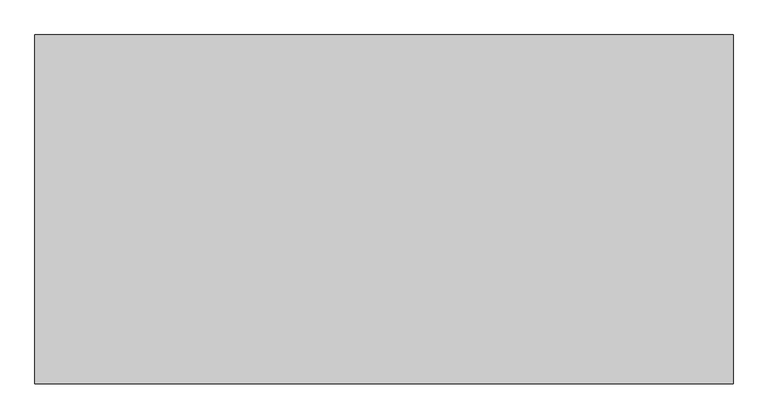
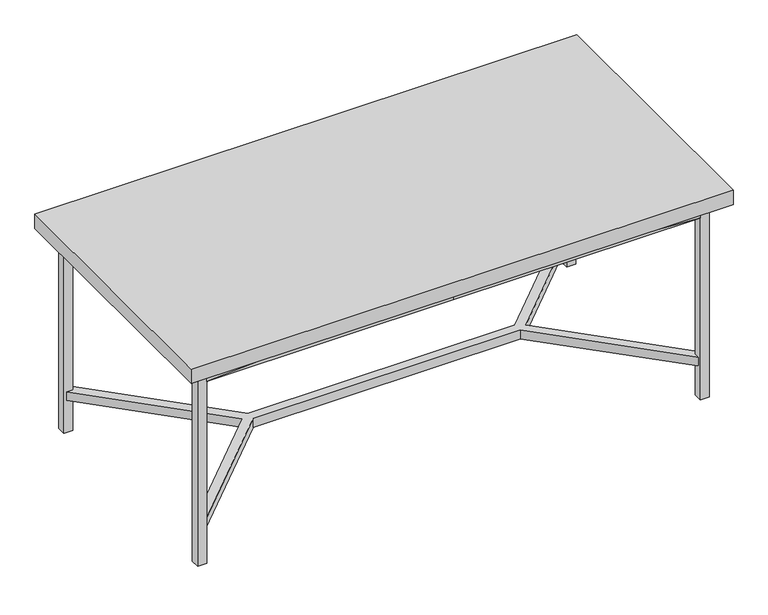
"""IFC4 building model written with IfcOpenShell, lengths in millimetres: furniture geometry, 2.8 Mesa sala docente : 2.8 Mesa sala docente."""

from ifc_helpers import new_model, si_unit, origin, place, context, project, spatial, faceted_brep, source, transform, mapped, element, save


def furniture_19ca3369(model_context):
    return source(origin(), model_context, "Body", "Brep", [
        faceted_brep([(819.9707866, -369.9327707, 639.9966478), (0.0001192, -369.9326515, 639.996767), (0.0001192, -369.9326515, 689.999938), (819.9707866, -369.9327707, 689.9997592), (819.9707866, -399.9620676, 639.9966478), (0.0001192, -399.9619186, 639.996767), (0.0001192, -399.9619484, 689.999938), (819.9707866, -399.9620676, 689.9997592), (-819.9706078, -369.9325621, 639.9969459), (-819.9705482, -369.9325621, 690.0000572), (-819.9706078, -399.961859, 639.9969459), (-819.9705482, -399.961859, 690.0000572)], [[[0, 1, 2, 3]], [[4, 5, 1, 0]], [[6, 5, 4]], [[7, 6, 4]], [[3, 2, 6, 7]], [[3, 7, 4, 0]], [[8, 9, 2, 1]], [[10, 8, 1, 5]], [[10, 5, 6]], [[11, 10, 6]], [[9, 11, 6, 2]], [[9, 8, 10, 11]]]),
        faceted_brep([(849.9847651, -369.9706793, 2.98e-05), (849.9847651, -369.9706793, 690.0000572), (849.9847651, -399.9999762, 690.0000572), (849.9847651, -399.9999762, 2.98e-05), (819.9554682, -369.9706793, 2.98e-05), (819.9554682, -369.9706793, 690.0000572), (819.9554682, -399.9999762, 690.0000572), (819.9554682, -399.9999762, 2.98e-05)], [[[0, 1, 2, 3]], [[4, 5, 1, 0]], [[2, 1, 5, 6]], [[3, 2, 6, 7]], [[3, 7, 4, 0]], [[7, 6, 5, 4]]]),
        faceted_brep([(-849.9847651, -369.9706793, 0.0), (-849.9847651, -399.9999762, 0.0), (-849.9847651, -399.9999762, 690.0000572), (-849.9847651, -369.9706793, 690.0000572), (-819.9554682, -369.9706793, 0.0), (-819.9554682, -399.9999762, 0.0), (-819.9554682, -399.9999762, 690.0000572), (-819.9554682, -369.9706793, 690.0000572)], [[[0, 1, 2, 3]], [[1, 0, 4, 5]], [[1, 5, 6, 2]], [[2, 6, 7, 3]], [[4, 0, 3, 7]], [[5, 4, 7, 6]]]),
        faceted_brep([(819.9555874, 399.9999762, 639.9966478), (-0.0151396, 400.0001252, 639.996767), (-0.0151396, 400.0001252, 689.999938), (819.9555874, 399.9999762, 689.9997592), (-0.0151396, 369.9707985, 689.999938), (-0.0151396, 369.9708283, 639.996767), (819.9555874, 369.9706793, 639.9966478), (819.9555874, 369.9706793, 689.9997592), (-819.9858665, 400.0002146, 639.9968863), (-819.9858069, 400.0002146, 689.9999976), (-819.9859262, 369.9709177, 639.9968863), (-819.9858665, 369.9708879, 689.9999976)], [[[0, 1, 2, 3]], [[4, 5, 6]], [[7, 4, 6]], [[3, 2, 4, 7]], [[3, 7, 6, 0]], [[8, 9, 2, 1]], [[10, 8, 1, 0, 6, 5]], [[11, 10, 5, 4]], [[9, 11, 4, 2]], [[9, 8, 10, 11]]]),
        faceted_brep([(849.9695659, -369.9325323, 639.9968863), (849.9695659, 369.9174523, 639.9968266), (849.9695659, 369.9175119, 689.999938), (849.9695659, -369.9325323, 689.9999976), (819.940269, -369.9325323, 639.9968863), (819.940269, 369.9174523, 639.9968266), (819.940269, 369.9175119, 689.999938), (819.940269, -369.9325323, 689.9999976)], [[[0, 1, 2, 3]], [[4, 5, 1, 0]], [[2, 1, 5, 6]], [[3, 2, 6, 7]], [[3, 7, 4, 0]], [[7, 6, 5, 4]]]),
        faceted_brep([(-849.9999642, -369.9325323, 639.9968863), (-849.9999642, -369.9325323, 689.9999976), (-849.9999642, 369.9175119, 689.999938), (-849.9999642, 369.9174523, 639.9968266), (-819.9706674, -369.9325323, 639.9968863), (-819.9706674, -369.9325323, 689.9999976), (-819.9706674, 369.9175119, 689.999938), (-819.9706674, 369.9174523, 639.9968266)], [[[0, 1, 2, 3]], [[1, 0, 4, 5]], [[1, 5, 6, 2]], [[2, 6, 7, 3]], [[4, 0, 3, 7]], [[5, 4, 7, 6]]]),
        faceted_brep([(-899.9999762, 449.9999881, 689.9999976), (-899.9999762, -449.9999881, 689.9999976), (-899.9999762, -449.9999881, 740.0000095), (-899.9999762, 449.9999881, 740.0000095), (899.9999762, 449.9999881, 689.9999976), (899.9999762, 449.9999881, 740.0000095), (899.9999762, -449.9999881, 689.9999976), (899.9999762, -449.9999881, 740.0000095)], [[[0, 1, 2, 3]], [[4, 0, 3, 5]], [[6, 4, 5, 7]], [[1, 6, 7, 2]], [[2, 7, 5, 3]], [[1, 0, 4, 6]]]),
        faceted_brep([(849.9695659, 399.9468088, 2.98e-05), (849.9695659, 399.9468088, 690.0000572), (849.9695659, 369.9175119, 690.0000572), (849.9695659, 369.9175119, 2.98e-05), (819.940269, 399.9468088, 2.98e-05), (819.940269, 399.9468088, 690.0000572), (819.940269, 369.9175119, 690.0000572), (819.940269, 369.9175119, 2.98e-05)], [[[0, 1, 2, 3]], [[4, 5, 1, 0]], [[2, 1, 5, 6]], [[3, 2, 6, 7]], [[3, 7, 4, 0]], [[7, 6, 5, 4]]]),
        faceted_brep([(-849.9999642, 399.9468088, -2.98e-05), (-849.9999642, 369.9174821, -2.98e-05), (-849.9999642, 369.9175119, 690.0000572), (-849.9999642, 399.9468088, 690.0000572), (-819.9706674, 399.9468088, -2.98e-05), (-819.9706674, 369.9174821, -2.98e-05), (-819.9706674, 369.9175119, 690.0000572), (-819.9706674, 399.9468088, 690.0000572)], [[[0, 1, 2, 3]], [[1, 0, 4, 5]], [[1, 5, 6, 2]], [[2, 6, 7, 3]], [[4, 0, 3, 7]], [[5, 4, 7, 6]]]),
        faceted_brep([(-841.204524, 369.9175119, 143.4746087), (-819.9858069, 369.9175119, 143.4746087), (-819.9858069, 369.9175119, 113.4453118), (-841.204524, 369.9175119, 113.4453118), (-471.2869823, 2.98e-05, 143.4746087), (-471.2869823, 2.98e-05, 113.4453118), (-841.2044644, -369.9174523, 143.4746087), (-841.2044644, -369.9174523, 113.4453118), (-819.9857473, -369.9174523, 143.4746087), (-819.9857473, -369.9174523, 113.4453118), (-819.9857473, -391.1665678, 143.4746087), (-819.9857473, -391.1665678, 113.4453118), (-443.833828, -15.0146484, 143.4746087), (-443.833828, -15.0146484, 113.4453118), (443.7617064, -15.0146484, 143.4746087), (443.7617064, -15.0146484, 113.4453118), (819.9554086, -391.1665082, 143.4746087), (819.9554086, -391.1665082, 113.4453118), (819.9554086, -369.9174523, 143.4746087), (819.9554086, -369.9174523, 113.4453118), (841.1740661, -369.9175715, 143.4746087), (841.1740661, -369.9175715, 113.4453118), (471.2568521, 0.0, 143.4746087), (471.2568521, 0.0, 113.4453118), (841.1743641, 369.9175715, 143.4746087), (841.1743641, 369.9175715, 113.4453118), (819.9555874, 369.9175715, 143.4746087), (819.9555874, 369.9175715, 113.4453118), (819.9555874, 391.1666274, 143.4746087), (819.9555874, 391.1666274, 113.4453118), (443.7890053, 14.9999857, 143.4746087), (443.7890053, 14.9999857, 113.4453118), (-443.8192629, 15.0000453, 143.4746087), (-443.8192629, 15.0000453, 113.4453118), (-819.9858069, 391.1666274, 143.4746087), (-819.9858069, 391.1666274, 113.4453118)], [[[0, 1, 2, 3]], [[4, 0, 3, 5]], [[6, 4, 5, 7]], [[8, 6, 7, 9]], [[10, 8, 9, 11]], [[12, 10, 11, 13]], [[14, 12, 13, 15]], [[16, 14, 15, 17]], [[18, 16, 17, 19]], [[20, 18, 19, 21]], [[22, 20, 21, 23]], [[24, 22, 23, 25]], [[26, 24, 25, 27]], [[28, 26, 27, 29]], [[30, 28, 29, 31]], [[32, 30, 31, 33]], [[34, 32, 33, 35]], [[1, 34, 35, 2]], [[34, 1, 0, 4, 6, 8, 10, 12, 14, 16, 18, 20, 22, 24, 26, 28, 30, 32]], [[2, 35, 33, 31, 29, 27, 25, 23, 21, 19, 17, 15, 13, 11, 9, 7, 5, 3]]]),
    ])


if __name__ == "__main__":
    model = new_model("IFC4")
    model_context = context("Model", 3, world=origin())
    ifc_project = project(units=[si_unit("LENGTHUNIT", "METRE", prefix="MILLI")], contexts=[model_context])
    site = spatial("IfcSite", under=ifc_project)
    building = spatial("IfcBuilding", under=site)
    placement = place(None, origin())
    furniture_shape = furniture_19ca3369(model_context)
    element("IfcFurniture", 1, ObjectType="2.8 Mesa sala docente : 2.8 Mesa sala docente", at=placement, inside=building, context=model_context, shape_type="MappedRepresentation", body=[
        mapped(furniture_shape, transform((0.0, 0.0, 0.0), x_axis=(1.0, 0.0, 0.0), y_axis=(0.0, 1.0, 0.0), z_axis=(0.0, 0.0, 1.0))),
    ])
    save(model, "model.ifc")
